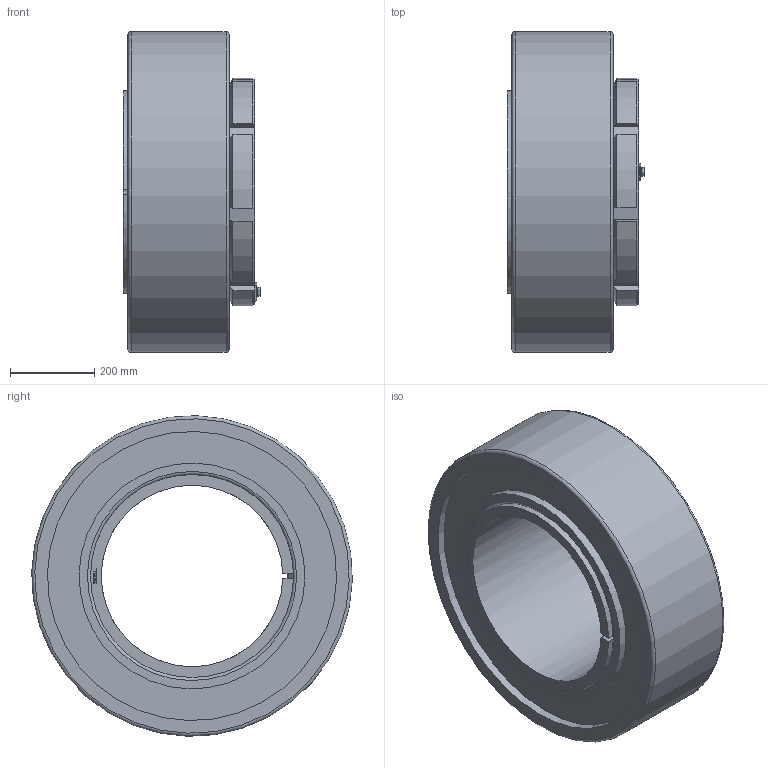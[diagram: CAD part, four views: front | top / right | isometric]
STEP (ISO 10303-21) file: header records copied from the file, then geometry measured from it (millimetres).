
FILE_DESCRIPTION( ( 'STEP AP203' ), ' ' );
FILE_NAME( 'p:/temp/worker_124/4676_1548/app_90_02016102820214989706596192d056f_000000_00_00_000000/format_0/BGL H 3192 TL+23192K.stp', '2016-10-28T18:21:52', ( '' ), ( '' ), ' ', 'PARTsolutions', ' ' );
FILE_SCHEMA( ( 'CONFIG_CONTROL_DESIGN' ) );
Length unit declared in the file: millimetre
Products named in the file (6): BGL H 3192 TL+23192K; _BGLH3192TLB; _BGL HM 3092; _BGLH3192TL+H-23192K; _BGL MS 3088-BGL MS 3092part; _BGL MS 3088-BGL MS 3092HHS
Assembly tree (5 placements, depth 2):
  BGL H 3192 TL+23192K
    _BGLH3192TLB
    _BGL HM 3092
    _BGLH3192TL+H-23192K
    _BGL MS 3088-BGL MS 3092part
    _BGL MS 3088-BGL MS 3092HHS
Bounding box: 325.78 x 759.74 x 759.74 mm (x, y, z)
Volume: 73212875.3 mm3; surface area: 2875879.6 mm2
Topology: 5 solids, 5 shells, 351 faces, 899 edges, 589 vertices
Faces by surface type: plane 230, cylinder 79, cone 38, torus 4
Full cylindrical faces by diameter (mm): 12 x9, 14 x1, 21.1 x1, 455 x1, 535 x2, 685 x2, 760 x1
Entity records: 10774 total; most frequent: CARTESIAN_POINT 2116, DIRECTION 1729, ORIENTED_EDGE 1726, EDGE_CURVE 863, VERTEX_POINT 586, AXIS2_PLACEMENT_3D 577, LINE 575, VECTOR 575
